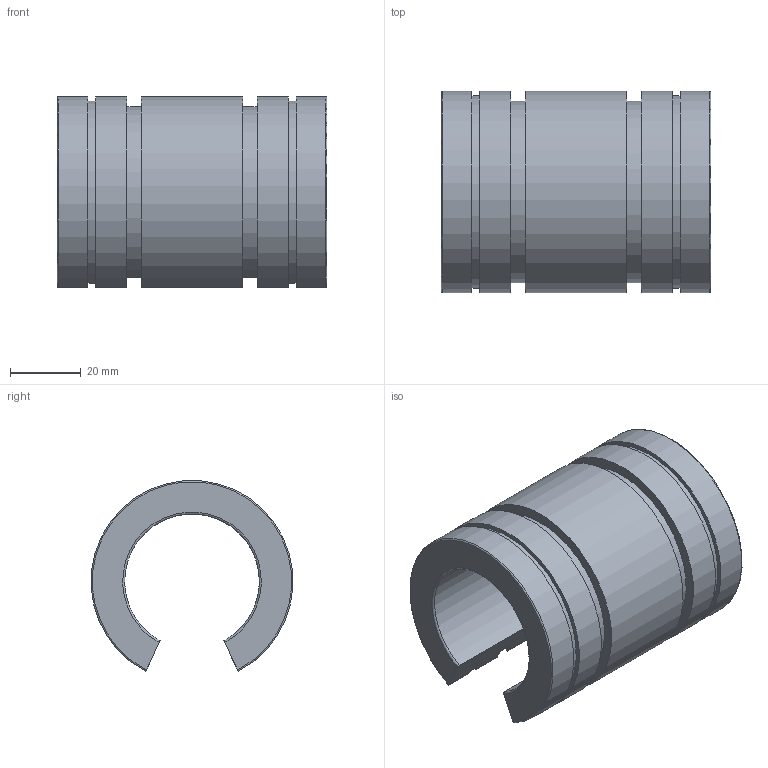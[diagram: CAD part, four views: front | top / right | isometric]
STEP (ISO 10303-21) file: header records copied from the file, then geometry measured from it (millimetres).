
FILE_DESCRIPTION(('STEP AP203'),'1');
FILE_NAME('//192.168.1.1/share/s-4 技術開発/s-4-4_CAD/s-4-4-3_見直し済み/PBC LINEAR修正済み/FJN/FJN_TOP/FJN38.step','2022-03-24T07:42:54',(' '),(' '),'Spatial InterOp 3D',' ',' ');
FILE_SCHEMA(('CONFIG_CONTROL_DESIGN'));
Length unit declared in the file: millimetre
Products named in the file (1): 1
Bounding box: 76 x 56.88 x 53.75 mm (x, y, z)
Volume: 86927.8 mm3; surface area: 25147.7 mm2
Topology: 1 solids, 1 shells, 26 faces, 72 edges, 48 vertices
Faces by surface type: plane 12, cylinder 10, torus 4
Entity records: 908 total; most frequent: CARTESIAN_POINT 187, ORIENTED_EDGE 144, DIRECTION 142, EDGE_CURVE 72, AXIS2_PLACEMENT_3D 51, VERTEX_POINT 48, LINE 40, VECTOR 40
